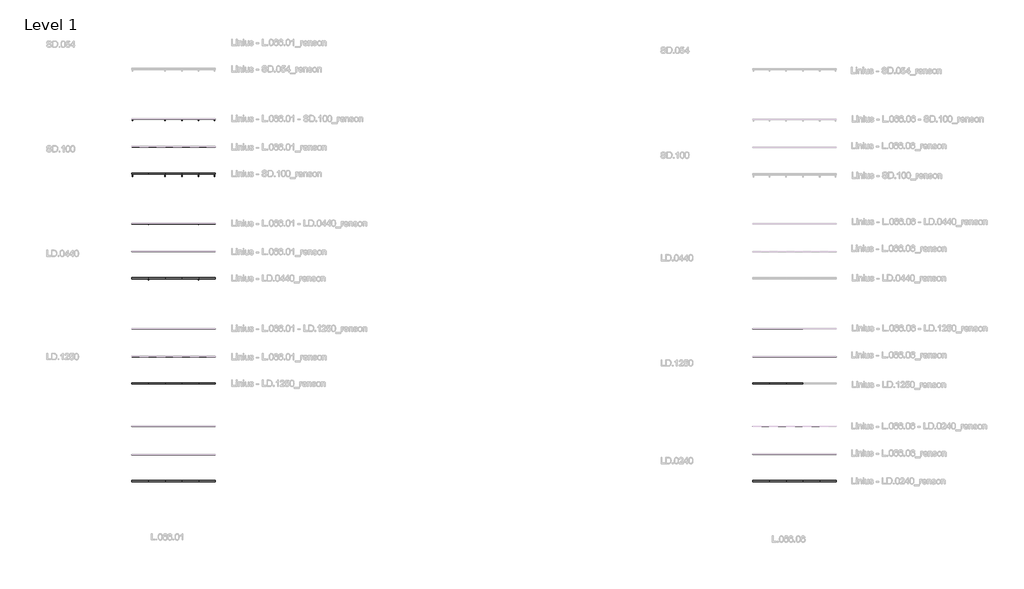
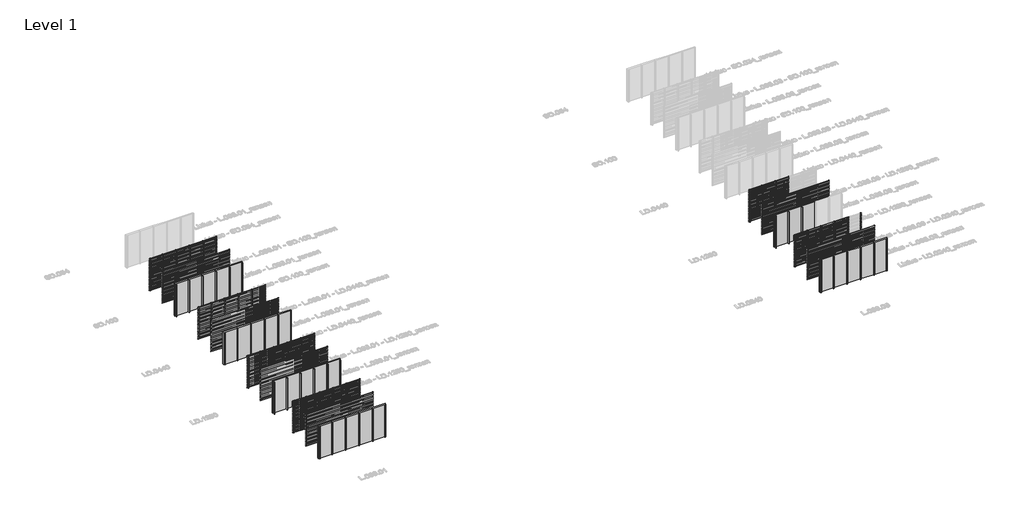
# One storey, part 1 of 540: 66 members, 61 plates.
"""IFC4 building model written with IfcOpenShell, lengths in millimetres."""

from ifc_helpers import new_model, si_unit, origin, origin_with_axes, place, context, project, spatial, polyline, outline, extrude, faceted_brep, transform, mapped, element, save
from components import rectangular_mullion_8b77bd57, rectangular_mullion_2c867e25, rectangular_mullion_7803f5c4, rectangular_mullion_82152e2f, rectangular_mullion_6132f1f1, rectangular_mullion_8f153c19, rectangular_mullion_5b30f3fd, rectangular_mullion_5e0e8e0a, rectangular_mullion_d2d38772, rectangular_mullion_efb80f74, rectangular_mullion_aaa1fb1b, rectangular_mullion_ea9d012c, empty_system_panel_empty_aabbdda4

model = new_model("IFC4")

# Units and contexts
model_context = context("Model", 3, world=origin())
ifc_project = project(units=[si_unit("LENGTHUNIT", "METRE", prefix="MILLI")], contexts=[model_context])

# Site, building, storey
site = spatial("IfcSite", under=ifc_project)
building = spatial("IfcBuilding", under=site)
storey = spatial("IfcBuildingStorey", under=building, Name="Level 1", Elevation=0.0)

# Members
placement = place(None, origin())
rectangular_mullion_shape = rectangular_mullion_8b77bd57(model_context)
element("IfcMember", 1, ObjectType="Rectangular Mullion : SD.100_renson", at=placement, inside=storey, context=model_context, shape_type="MappedRepresentation", body=[
    mapped(rectangular_mullion_shape, transform((4066.6208096, 29024.0540136, 0.0), x_axis=(-1.0, 0.0, 0.0), y_axis=(0.0, 1.0, 0.0), z_axis=(0.0, 0.0, -1.0))),
])
element("IfcMember", 2, ObjectType="Rectangular Mullion : SD.100_renson", at=placement, inside=storey, context=model_context, shape_type="MappedRepresentation", body=[
    mapped(rectangular_mullion_shape, transform((2866.6208097, 29024.0540136, 0.0), x_axis=(-1.0, 0.0, 0.0), y_axis=(0.0, 1.0, 0.0), z_axis=(0.0, 0.0, -1.0))),
])
element("IfcMember", 3, ObjectType="Rectangular Mullion : SD.100_renson", at=placement, inside=storey, context=model_context, shape_type="MappedRepresentation", body=[
    mapped(rectangular_mullion_shape, transform((1666.6208099, 29024.0540136, 0.0), x_axis=(-1.0, 0.0, 0.0), y_axis=(0.0, 1.0, 0.0), z_axis=(0.0, 0.0, -1.0))),
])
element("IfcMember", 4, ObjectType="Rectangular Mullion : SD.100_renson", at=placement, inside=storey, context=model_context, shape_type="MappedRepresentation", body=[
    mapped(rectangular_mullion_shape, transform((4066.6208096, 25024.0540136, 0.0), x_axis=(-1.0, 0.0, 0.0), y_axis=(0.0, 1.0, 0.0), z_axis=(0.0, 0.0, -1.0))),
])
element("IfcMember", 5, ObjectType="Rectangular Mullion : SD.100_renson", at=placement, inside=storey, context=model_context, shape_type="MappedRepresentation", body=[
    mapped(rectangular_mullion_shape, transform((2866.6208097, 25024.0540136, 0.0), x_axis=(-1.0, 0.0, 0.0), y_axis=(0.0, 1.0, 0.0), z_axis=(0.0, 0.0, -1.0))),
])
element("IfcMember", 6, ObjectType="Rectangular Mullion : SD.100_renson", at=placement, inside=storey, context=model_context, shape_type="MappedRepresentation", body=[
    mapped(rectangular_mullion_shape, transform((1666.6208099, 25024.0540136, 0.0), x_axis=(-1.0, 0.0, 0.0), y_axis=(0.0, 1.0, 0.0), z_axis=(0.0, 0.0, -1.0))),
])
element("IfcMember", 7, ObjectType="Rectangular Mullion : SD.100_renson", at=placement, inside=storey, context=model_context, shape_type="MappedRepresentation", body=[
    mapped(rectangular_mullion_shape, transform((5266.6208095, 25024.0540136, 0.0), x_axis=(-1.0, 0.0, 0.0), y_axis=(0.0, 1.0, 0.0), z_axis=(0.0, 0.0, -1.0))),
])
element("IfcMember", 8, ObjectType="Rectangular Mullion : SD.100_renson", at=placement, inside=storey, context=model_context, shape_type="MappedRepresentation", body=[
    mapped(rectangular_mullion_shape, transform((5266.6208095, 29024.0540136, 0.0), x_axis=(-1.0, 0.0, 0.0), y_axis=(0.0, 1.0, 0.0), z_axis=(0.0, 0.0, -1.0))),
])
rectangular_mullion_2_shape = rectangular_mullion_2c867e25(model_context)
element("IfcMember", 9, ObjectType="Rectangular Mullion : LD.0440_renson", at=placement, inside=storey, context=model_context, shape_type="MappedRepresentation", body=[
    mapped(rectangular_mullion_2_shape, transform((4066.6208096, 21524.0540136, 0.0), x_axis=(-1.0, 0.0, 0.0), y_axis=(0.0, 1.0, 0.0), z_axis=(0.0, 0.0, -1.0))),
])
element("IfcMember", 10, ObjectType="Rectangular Mullion : LD.0440_renson", at=placement, inside=storey, context=model_context, shape_type="MappedRepresentation", body=[
    mapped(rectangular_mullion_2_shape, transform((2866.6208097, 21524.0540136, 0.0), x_axis=(-1.0, 0.0, 0.0), y_axis=(0.0, 1.0, 0.0), z_axis=(0.0, 0.0, -1.0))),
])
element("IfcMember", 11, ObjectType="Rectangular Mullion : LD.0440_renson", at=placement, inside=storey, context=model_context, shape_type="MappedRepresentation", body=[
    mapped(rectangular_mullion_2_shape, transform((1666.6208099, 21524.0540136, 0.0), x_axis=(-1.0, 0.0, 0.0), y_axis=(0.0, 1.0, 0.0), z_axis=(0.0, 0.0, -1.0))),
])
element("IfcMember", 12, ObjectType="Rectangular Mullion : LD.0440_renson", at=placement, inside=storey, context=model_context, shape_type="MappedRepresentation", body=[
    mapped(rectangular_mullion_2_shape, transform((4066.6208096, 17524.0540136, 0.0), x_axis=(-1.0, 0.0, 0.0), y_axis=(0.0, 1.0, 0.0), z_axis=(0.0, 0.0, -1.0))),
])
element("IfcMember", 13, ObjectType="Rectangular Mullion : LD.0440_renson", at=placement, inside=storey, context=model_context, shape_type="MappedRepresentation", body=[
    mapped(rectangular_mullion_2_shape, transform((2866.6208097, 17524.0540136, 0.0), x_axis=(-1.0, 0.0, 0.0), y_axis=(0.0, 1.0, 0.0), z_axis=(0.0, 0.0, -1.0))),
])
element("IfcMember", 14, ObjectType="Rectangular Mullion : LD.0440_renson", at=placement, inside=storey, context=model_context, shape_type="MappedRepresentation", body=[
    mapped(rectangular_mullion_2_shape, transform((1666.6208099, 17524.0540136, 0.0), x_axis=(-1.0, 0.0, 0.0), y_axis=(0.0, 1.0, 0.0), z_axis=(0.0, 0.0, -1.0))),
])
element("IfcMember", 15, ObjectType="Rectangular Mullion : LD.0440_renson", at=placement, inside=storey, context=model_context, shape_type="MappedRepresentation", body=[
    mapped(rectangular_mullion_2_shape, transform((5266.6208095, 17524.0540136, 0.0), x_axis=(-1.0, 0.0, 0.0), y_axis=(0.0, 1.0, 0.0), z_axis=(0.0, 0.0, -1.0))),
])
element("IfcMember", 16, ObjectType="Rectangular Mullion : LD.0440_renson", at=placement, inside=storey, context=model_context, shape_type="MappedRepresentation", body=[
    mapped(rectangular_mullion_2_shape, transform((5266.6208095, 21524.0540136, 0.0), x_axis=(-1.0, 0.0, 0.0), y_axis=(0.0, 1.0, 0.0), z_axis=(0.0, 0.0, -1.0))),
])
rectangular_mullion_3_shape = rectangular_mullion_7803f5c4(model_context)
element("IfcMember", 17, ObjectType="Rectangular Mullion : LD.1250_renson", at=placement, inside=storey, context=model_context, shape_type="MappedRepresentation", body=[
    mapped(rectangular_mullion_3_shape, transform((4066.6208096, 13981.0540136, 0.0), x_axis=(-1.0, 0.0, 0.0), y_axis=(0.0, 1.0, 0.0), z_axis=(0.0, 0.0, -1.0))),
])
element("IfcMember", 18, ObjectType="Rectangular Mullion : LD.1250_renson", at=placement, inside=storey, context=model_context, shape_type="MappedRepresentation", body=[
    mapped(rectangular_mullion_3_shape, transform((2866.6208097, 13981.0540136, 0.0), x_axis=(-1.0, 0.0, 0.0), y_axis=(0.0, 1.0, 0.0), z_axis=(0.0, 0.0, -1.0))),
])
element("IfcMember", 19, ObjectType="Rectangular Mullion : LD.1250_renson", at=placement, inside=storey, context=model_context, shape_type="MappedRepresentation", body=[
    mapped(rectangular_mullion_3_shape, transform((1666.6208099, 13981.0540136, 0.0), x_axis=(-1.0, 0.0, 0.0), y_axis=(0.0, 1.0, 0.0), z_axis=(0.0, 0.0, -1.0))),
])
element("IfcMember", 20, ObjectType="Rectangular Mullion : LD.1250_renson", at=placement, inside=storey, context=model_context, shape_type="MappedRepresentation", body=[
    mapped(rectangular_mullion_3_shape, transform((4066.6208096, 9981.0540136, 0.0), x_axis=(-1.0, 0.0, 0.0), y_axis=(0.0, 1.0, 0.0), z_axis=(0.0, 0.0, -1.0))),
])
element("IfcMember", 21, ObjectType="Rectangular Mullion : LD.1250_renson", at=placement, inside=storey, context=model_context, shape_type="MappedRepresentation", body=[
    mapped(rectangular_mullion_3_shape, transform((2866.6208097, 9981.0540136, 0.0), x_axis=(-1.0, 0.0, 0.0), y_axis=(0.0, 1.0, 0.0), z_axis=(0.0, 0.0, -1.0))),
])
element("IfcMember", 22, ObjectType="Rectangular Mullion : LD.1250_renson", at=placement, inside=storey, context=model_context, shape_type="MappedRepresentation", body=[
    mapped(rectangular_mullion_3_shape, transform((1666.6208099, 9981.0540136, 0.0), x_axis=(-1.0, 0.0, 0.0), y_axis=(0.0, 1.0, 0.0), z_axis=(0.0, 0.0, -1.0))),
])
element("IfcMember", 23, ObjectType="Rectangular Mullion : LD.1250_renson", at=placement, inside=storey, context=model_context, shape_type="MappedRepresentation", body=[
    mapped(rectangular_mullion_3_shape, transform((5266.6208095, 9981.0540136, 0.0), x_axis=(-1.0, 0.0, 0.0), y_axis=(0.0, 1.0, 0.0), z_axis=(0.0, 0.0, -1.0))),
])
element("IfcMember", 24, ObjectType="Rectangular Mullion : LD.1250_renson", at=placement, inside=storey, context=model_context, shape_type="MappedRepresentation", body=[
    mapped(rectangular_mullion_3_shape, transform((5266.6208095, 13981.0540136, 0.0), x_axis=(-1.0, 0.0, 0.0), y_axis=(0.0, 1.0, 0.0), z_axis=(0.0, 0.0, -1.0))),
])
element("IfcMember", 25, ObjectType="Rectangular Mullion : LD.1250_renson", at=placement, inside=storey, context=model_context, shape_type="MappedRepresentation", body=[
    mapped(rectangular_mullion_3_shape, transform((47366.6208097, 13981.0540136, 0.0), x_axis=(-1.0, 0.0, 0.0), y_axis=(0.0, 1.0, 0.0), z_axis=(0.0, 0.0, -1.0))),
])
element("IfcMember", 26, ObjectType="Rectangular Mullion : LD.1250_renson", at=placement, inside=storey, context=model_context, shape_type="MappedRepresentation", body=[
    mapped(rectangular_mullion_3_shape, transform((46166.6208097, 13981.0540136, 0.0), x_axis=(-1.0, 0.0, 0.0), y_axis=(0.0, 1.0, 0.0), z_axis=(0.0, 0.0, -1.0))),
])
element("IfcMember", 27, ObjectType="Rectangular Mullion : LD.1250_renson", at=placement, inside=storey, context=model_context, shape_type="MappedRepresentation", body=[
    mapped(rectangular_mullion_3_shape, transform((47366.6208097, 9981.0540136, 0.0), x_axis=(-1.0, 0.0, 0.0), y_axis=(0.0, 1.0, 0.0), z_axis=(0.0, 0.0, -1.0))),
])
element("IfcMember", 28, ObjectType="Rectangular Mullion : LD.1250_renson", at=placement, inside=storey, context=model_context, shape_type="MappedRepresentation", body=[
    mapped(rectangular_mullion_3_shape, transform((46166.6208097, 9981.0540136, 0.0), x_axis=(-1.0, 0.0, 0.0), y_axis=(0.0, 1.0, 0.0), z_axis=(0.0, 0.0, -1.0))),
])
rectangular_mullion_4_shape = rectangular_mullion_82152e2f(model_context)
element("IfcMember", 29, ObjectType="Rectangular Mullion : LD.0240_renson", at=placement, inside=storey, context=model_context, shape_type="MappedRepresentation", body=[
    mapped(rectangular_mullion_4_shape, transform((49766.6208097, 6985.0270068, 0.0), x_axis=(-1.0, 0.0, 0.0), y_axis=(0.0, 1.0, 0.0), z_axis=(0.0, 0.0, -1.0))),
])
element("IfcMember", 30, ObjectType="Rectangular Mullion : LD.0240_renson", at=placement, inside=storey, context=model_context, shape_type="MappedRepresentation", body=[
    mapped(rectangular_mullion_4_shape, transform((48566.6208097, 6985.0270068, 0.0), x_axis=(-1.0, 0.0, 0.0), y_axis=(0.0, 1.0, 0.0), z_axis=(0.0, 0.0, -1.0))),
])
element("IfcMember", 31, ObjectType="Rectangular Mullion : LD.0240_renson", at=placement, inside=storey, context=model_context, shape_type="MappedRepresentation", body=[
    mapped(rectangular_mullion_4_shape, transform((47366.6208097, 6985.0270068, 0.0), x_axis=(-1.0, 0.0, 0.0), y_axis=(0.0, 1.0, 0.0), z_axis=(0.0, 0.0, -1.0))),
])
element("IfcMember", 32, ObjectType="Rectangular Mullion : LD.0240_renson", at=placement, inside=storey, context=model_context, shape_type="MappedRepresentation", body=[
    mapped(rectangular_mullion_4_shape, transform((46166.6208097, 6985.0270068, 0.0), x_axis=(-1.0, 0.0, 0.0), y_axis=(0.0, 1.0, 0.0), z_axis=(0.0, 0.0, -1.0))),
])
element("IfcMember", 33, ObjectType="Rectangular Mullion : LD.0240_renson", at=placement, inside=storey, context=model_context, shape_type="MappedRepresentation", body=[
    mapped(rectangular_mullion_4_shape, transform((49766.6208097, 2985.0270068, 0.0), x_axis=(-1.0, 0.0, 0.0), y_axis=(0.0, 1.0, 0.0), z_axis=(0.0, 0.0, -1.0))),
])
element("IfcMember", 34, ObjectType="Rectangular Mullion : LD.0240_renson", at=placement, inside=storey, context=model_context, shape_type="MappedRepresentation", body=[
    mapped(rectangular_mullion_4_shape, transform((48566.6208097, 2985.0270068, 0.0), x_axis=(-1.0, 0.0, 0.0), y_axis=(0.0, 1.0, 0.0), z_axis=(0.0, 0.0, -1.0))),
])
element("IfcMember", 35, ObjectType="Rectangular Mullion : LD.0240_renson", at=placement, inside=storey, context=model_context, shape_type="MappedRepresentation", body=[
    mapped(rectangular_mullion_4_shape, transform((47366.6208097, 2985.0270068, 0.0), x_axis=(-1.0, 0.0, 0.0), y_axis=(0.0, 1.0, 0.0), z_axis=(0.0, 0.0, -1.0))),
])
element("IfcMember", 36, ObjectType="Rectangular Mullion : LD.0240_renson", at=placement, inside=storey, context=model_context, shape_type="MappedRepresentation", body=[
    mapped(rectangular_mullion_4_shape, transform((46166.6208097, 2985.0270068, 0.0), x_axis=(-1.0, 0.0, 0.0), y_axis=(0.0, 1.0, 0.0), z_axis=(0.0, 0.0, -1.0))),
])
element("IfcMember", 37, ObjectType="Rectangular Mullion : LD.0240_renson", at=placement, inside=storey, context=model_context, shape_type="MappedRepresentation", body=[
    mapped(rectangular_mullion_4_shape, transform((5266.6208097, 2985.0270068, 0.0), x_axis=(-1.0, 0.0, 0.0), y_axis=(0.0, 1.0, 0.0), z_axis=(0.0, 0.0, -1.0))),
])
element("IfcMember", 38, ObjectType="Rectangular Mullion : LD.0240_renson", at=placement, inside=storey, context=model_context, shape_type="MappedRepresentation", body=[
    mapped(rectangular_mullion_4_shape, transform((4066.6208097, 2985.0270068, 0.0), x_axis=(-1.0, 0.0, 0.0), y_axis=(0.0, 1.0, 0.0), z_axis=(0.0, 0.0, -1.0))),
])
element("IfcMember", 39, ObjectType="Rectangular Mullion : LD.0240_renson", at=placement, inside=storey, context=model_context, shape_type="MappedRepresentation", body=[
    mapped(rectangular_mullion_4_shape, transform((2866.6208097, 2985.0270068, 0.0), x_axis=(-1.0, 0.0, 0.0), y_axis=(0.0, 1.0, 0.0), z_axis=(0.0, 0.0, -1.0))),
])
element("IfcMember", 40, ObjectType="Rectangular Mullion : LD.0240_renson", at=placement, inside=storey, context=model_context, shape_type="MappedRepresentation", body=[
    mapped(rectangular_mullion_4_shape, transform((1666.6208097, 2985.0270068, 0.0), x_axis=(-1.0, 0.0, 0.0), y_axis=(0.0, 1.0, 0.0), z_axis=(0.0, 0.0, -1.0))),
])
element("IfcMember", 41, ObjectType="Rectangular Mullion : LD.0240_renson", at=placement, inside=storey, context=model_context, shape_type="MappedRepresentation", body=[
    mapped(rectangular_mullion_4_shape, transform((5266.6208097, 6985.0270068, 0.0), x_axis=(-1.0, 0.0, 0.0), y_axis=(0.0, 1.0, 0.0), z_axis=(0.0, 0.0, -1.0))),
])
element("IfcMember", 42, ObjectType="Rectangular Mullion : LD.0240_renson", at=placement, inside=storey, context=model_context, shape_type="MappedRepresentation", body=[
    mapped(rectangular_mullion_4_shape, transform((4066.6208097, 6985.0270068, 0.0), x_axis=(-1.0, 0.0, 0.0), y_axis=(0.0, 1.0, 0.0), z_axis=(0.0, 0.0, -1.0))),
])
element("IfcMember", 43, ObjectType="Rectangular Mullion : LD.0240_renson", at=placement, inside=storey, context=model_context, shape_type="MappedRepresentation", body=[
    mapped(rectangular_mullion_4_shape, transform((2866.6208097, 6985.0270068, 0.0), x_axis=(-1.0, 0.0, 0.0), y_axis=(0.0, 1.0, 0.0), z_axis=(0.0, 0.0, -1.0))),
])
element("IfcMember", 44, ObjectType="Rectangular Mullion : LD.0240_renson", at=placement, inside=storey, context=model_context, shape_type="MappedRepresentation", body=[
    mapped(rectangular_mullion_4_shape, transform((1666.6208097, 6985.0270068, 0.0), x_axis=(-1.0, 0.0, 0.0), y_axis=(0.0, 1.0, 0.0), z_axis=(0.0, 0.0, -1.0))),
])
rectangular_mullion_5_shape = rectangular_mullion_6132f1f1(model_context)
element("IfcMember", 45, ObjectType="Rectangular Mullion : SD.100 - left_renson", at=placement, inside=storey, context=model_context, shape_type="MappedRepresentation", body=[
    mapped(rectangular_mullion_5_shape, transform((466.6208097, 29024.0540136, 0.0), x_axis=(-1.0, 0.0, 0.0), y_axis=(0.0, 1.0, 0.0), z_axis=(0.0, 0.0, -1.0))),
])
element("IfcMember", 46, ObjectType="Rectangular Mullion : SD.100 - left_renson", at=placement, inside=storey, context=model_context, shape_type="MappedRepresentation", body=[
    mapped(rectangular_mullion_5_shape, transform((466.6208097, 25024.0540136, 0.0), x_axis=(-1.0, 0.0, 0.0), y_axis=(0.0, 1.0, 0.0), z_axis=(0.0, 0.0, -1.0))),
])
rectangular_mullion_6_shape = rectangular_mullion_8f153c19(model_context)
element("IfcMember", 47, ObjectType="Rectangular Mullion : SD.100 - right_renson", at=placement, inside=storey, context=model_context, shape_type="MappedRepresentation", body=[
    mapped(rectangular_mullion_6_shape, transform((6466.6208097, 29024.0540136, 3000.0), x_axis=(1.0, 0.0, 0.0), y_axis=(0.0, 1.0, 0.0), z_axis=(0.0, 0.0, 1.0))),
])
element("IfcMember", 48, ObjectType="Rectangular Mullion : SD.100 - right_renson", at=placement, inside=storey, context=model_context, shape_type="MappedRepresentation", body=[
    mapped(rectangular_mullion_6_shape, transform((6466.6208097, 25024.0540136, 3000.0), x_axis=(1.0, 0.0, 0.0), y_axis=(0.0, 1.0, 0.0), z_axis=(0.0, 0.0, 1.0))),
])
rectangular_mullion_7_shape = rectangular_mullion_5b30f3fd(model_context)
element("IfcMember", 49, ObjectType="Rectangular Mullion : LD.0440 - left_renson", at=placement, inside=storey, context=model_context, shape_type="MappedRepresentation", body=[
    mapped(rectangular_mullion_7_shape, transform((466.6208097, 21524.0540136, 0.0), x_axis=(-1.0, 0.0, 0.0), y_axis=(0.0, 1.0, 0.0), z_axis=(0.0, 0.0, -1.0))),
])
element("IfcMember", 50, ObjectType="Rectangular Mullion : LD.0440 - left_renson", at=placement, inside=storey, context=model_context, shape_type="MappedRepresentation", body=[
    mapped(rectangular_mullion_7_shape, transform((466.6208097, 17524.0540136, 0.0), x_axis=(-1.0, 0.0, 0.0), y_axis=(0.0, 1.0, 0.0), z_axis=(0.0, 0.0, -1.0))),
])
rectangular_mullion_8_shape = rectangular_mullion_5e0e8e0a(model_context)
element("IfcMember", 51, ObjectType="Rectangular Mullion : LD.0440 - right_renson", at=placement, inside=storey, context=model_context, shape_type="MappedRepresentation", body=[
    mapped(rectangular_mullion_8_shape, transform((6466.6208097, 21524.0540136, 3000.0), x_axis=(1.0, 0.0, 0.0), y_axis=(0.0, 1.0, 0.0), z_axis=(0.0, 0.0, 1.0))),
])
element("IfcMember", 52, ObjectType="Rectangular Mullion : LD.0440 - right_renson", at=placement, inside=storey, context=model_context, shape_type="MappedRepresentation", body=[
    mapped(rectangular_mullion_8_shape, transform((6466.6208097, 17524.0540136, 3000.0), x_axis=(1.0, 0.0, 0.0), y_axis=(0.0, 1.0, 0.0), z_axis=(0.0, 0.0, 1.0))),
])
rectangular_mullion_9_shape = rectangular_mullion_d2d38772(model_context)
element("IfcMember", 53, ObjectType="Rectangular Mullion : LD.1250 - left_renson", at=placement, inside=storey, context=model_context, shape_type="MappedRepresentation", body=[
    mapped(rectangular_mullion_9_shape, transform((466.6208097, 13981.0540136, 0.0), x_axis=(-1.0, 0.0, 0.0), y_axis=(0.0, 1.0, 0.0), z_axis=(0.0, 0.0, -1.0))),
])
element("IfcMember", 54, ObjectType="Rectangular Mullion : LD.1250 - left_renson", at=placement, inside=storey, context=model_context, shape_type="MappedRepresentation", body=[
    mapped(rectangular_mullion_9_shape, transform((466.6208097, 9981.0540136, 0.0), x_axis=(-1.0, 0.0, 0.0), y_axis=(0.0, 1.0, 0.0), z_axis=(0.0, 0.0, -1.0))),
])
element("IfcMember", 55, ObjectType="Rectangular Mullion : LD.1250 - left_renson", at=placement, inside=storey, context=model_context, shape_type="MappedRepresentation", body=[
    mapped(rectangular_mullion_9_shape, transform((44966.6208097, 13981.0540136, 0.0), x_axis=(-1.0, 0.0, 0.0), y_axis=(0.0, 1.0, 0.0), z_axis=(0.0, 0.0, -1.0))),
])
element("IfcMember", 56, ObjectType="Rectangular Mullion : LD.1250 - left_renson", at=placement, inside=storey, context=model_context, shape_type="MappedRepresentation", body=[
    mapped(rectangular_mullion_9_shape, transform((44966.6208097, 9981.0540136, 0.0), x_axis=(-1.0, 0.0, 0.0), y_axis=(0.0, 1.0, 0.0), z_axis=(0.0, 0.0, -1.0))),
])
rectangular_mullion_10_shape = rectangular_mullion_efb80f74(model_context)
element("IfcMember", 57, ObjectType="Rectangular Mullion : LD.1250 - right_renson", at=placement, inside=storey, context=model_context, shape_type="MappedRepresentation", body=[
    mapped(rectangular_mullion_10_shape, transform((6466.6208097, 13981.0540136, 3000.0), x_axis=(1.0, 0.0, 0.0), y_axis=(0.0, 1.0, 0.0), z_axis=(0.0, 0.0, 1.0))),
])
element("IfcMember", 58, ObjectType="Rectangular Mullion : LD.1250 - right_renson", at=placement, inside=storey, context=model_context, shape_type="MappedRepresentation", body=[
    mapped(rectangular_mullion_10_shape, transform((6466.6208097, 9981.0540136, 3000.0), x_axis=(1.0, 0.0, 0.0), y_axis=(0.0, 1.0, 0.0), z_axis=(0.0, 0.0, 1.0))),
])
rectangular_mullion_11_shape = rectangular_mullion_aaa1fb1b(model_context)
element("IfcMember", 59, ObjectType="Rectangular Mullion : LD.0240 - left_renson", at=placement, inside=storey, context=model_context, shape_type="MappedRepresentation", body=[
    mapped(rectangular_mullion_11_shape, transform((44966.6208097, 6985.0270068, 0.0), x_axis=(-1.0, 0.0, 0.0), y_axis=(0.0, 1.0, 0.0), z_axis=(0.0, 0.0, -1.0))),
])
element("IfcMember", 60, ObjectType="Rectangular Mullion : LD.0240 - left_renson", at=placement, inside=storey, context=model_context, shape_type="MappedRepresentation", body=[
    mapped(rectangular_mullion_11_shape, transform((44966.6208097, 2985.0270068, 0.0), x_axis=(-1.0, 0.0, 0.0), y_axis=(0.0, 1.0, 0.0), z_axis=(0.0, 0.0, -1.0))),
])
element("IfcMember", 61, ObjectType="Rectangular Mullion : LD.0240 - left_renson", at=placement, inside=storey, context=model_context, shape_type="MappedRepresentation", body=[
    mapped(rectangular_mullion_11_shape, transform((466.6208097, 2985.0270068, 0.0), x_axis=(-1.0, 0.0, 0.0), y_axis=(0.0, 1.0, 0.0), z_axis=(0.0, 0.0, -1.0))),
])
element("IfcMember", 62, ObjectType="Rectangular Mullion : LD.0240 - left_renson", at=placement, inside=storey, context=model_context, shape_type="MappedRepresentation", body=[
    mapped(rectangular_mullion_11_shape, transform((466.6208097, 6985.0270068, 0.0), x_axis=(-1.0, 0.0, 0.0), y_axis=(0.0, 1.0, 0.0), z_axis=(0.0, 0.0, -1.0))),
])
rectangular_mullion_12_shape = rectangular_mullion_ea9d012c(model_context)
element("IfcMember", 63, ObjectType="Rectangular Mullion : LD.0240 - right_renson", at=placement, inside=storey, context=model_context, shape_type="MappedRepresentation", body=[
    mapped(rectangular_mullion_12_shape, transform((50966.6208097, 6985.0270068, 3000.0), x_axis=(1.0, 0.0, 0.0), y_axis=(0.0, 1.0, 0.0), z_axis=(0.0, 0.0, 1.0))),
])
element("IfcMember", 64, ObjectType="Rectangular Mullion : LD.0240 - right_renson", at=placement, inside=storey, context=model_context, shape_type="MappedRepresentation", body=[
    mapped(rectangular_mullion_12_shape, transform((50966.6208097, 2985.0270068, 3000.0), x_axis=(1.0, 0.0, 0.0), y_axis=(0.0, 1.0, 0.0), z_axis=(0.0, 0.0, 1.0))),
])
element("IfcMember", 65, ObjectType="Rectangular Mullion : LD.0240 - right_renson", at=placement, inside=storey, context=model_context, shape_type="MappedRepresentation", body=[
    mapped(rectangular_mullion_12_shape, transform((6466.6208097, 2985.0270068, 3000.0), x_axis=(1.0, 0.0, 0.0), y_axis=(0.0, 1.0, 0.0), z_axis=(0.0, 0.0, 1.0))),
])
element("IfcMember", 66, ObjectType="Rectangular Mullion : LD.0240 - right_renson", at=placement, inside=storey, context=model_context, shape_type="MappedRepresentation", body=[
    mapped(rectangular_mullion_12_shape, transform((6466.6208097, 6985.0270068, 3000.0), x_axis=(1.0, 0.0, 0.0), y_axis=(0.0, 1.0, 0.0), z_axis=(0.0, 0.0, 1.0))),
])

# Plates
element("IfcPlate", 67, ObjectType="Linius - L.066.01_renson", at=placement, inside=storey, context=model_context, shape_type="SweptSolid", body=[
    extrude(outline(polyline([(466.6208097, 29025.0540136), (1666.6208099, 29025.0540136), (1666.6208099, 29023.0540136), (466.6208097, 29023.0540136), (466.6208097, 29025.0540136)])), origin_with_axes(), (0.0, 0.0, 1.0), 3000.0),
])
element("IfcPlate", 68, ObjectType="Linius - L.066.01_renson", at=placement, inside=storey, context=model_context, shape_type="SweptSolid", body=[
    extrude(outline(polyline([(1666.6208099, 29025.0540136), (2866.6208097, 29025.0540136), (2866.6208097, 29023.0540136), (1666.6208099, 29023.0540136), (1666.6208099, 29025.0540136)])), origin_with_axes(), (0.0, 0.0, 1.0), 3000.0),
])
element("IfcPlate", 69, ObjectType="Linius - L.066.01_renson", at=placement, inside=storey, context=model_context, shape_type="SweptSolid", body=[
    extrude(outline(polyline([(2866.6208097, 29025.0540136), (4066.6208096, 29025.0540136), (4066.6208096, 29023.0540136), (2866.6208097, 29023.0540136), (2866.6208097, 29025.0540136)])), origin_with_axes(), (0.0, 0.0, 1.0), 3000.0),
])
element("IfcPlate", 70, ObjectType="Linius - L.066.01_renson", at=placement, inside=storey, context=model_context, shape_type="SweptSolid", body=[
    extrude(outline(polyline([(5266.6208095, 29025.0540136), (6466.6208097, 29025.0540136), (6466.6208097, 29023.0540136), (5266.6208095, 29023.0540136), (5266.6208095, 29025.0540136)])), origin_with_axes(), (0.0, 0.0, 1.0), 3000.0),
])
element("IfcPlate", 71, ObjectType="Linius - L.066.01_renson", at=placement, inside=storey, context=model_context, shape_type="SweptSolid", body=[
    extrude(outline(polyline([(466.6208097, 27025.0540136), (6466.6208097, 27025.0540136), (6466.6208097, 27023.0540136), (466.6208097, 27023.0540136), (466.6208097, 27025.0540136)])), origin_with_axes(), (0.0, 0.0, 1.0), 3000.0),
])
element("IfcPlate", 72, ObjectType="Linius - L.066.01_renson", at=placement, inside=storey, context=model_context, shape_type="SweptSolid", body=[
    extrude(outline(polyline([(466.6208097, 21525.0540136), (1666.6208099, 21525.0540136), (1666.6208099, 21523.0540136), (466.6208097, 21523.0540136), (466.6208097, 21525.0540136)])), origin_with_axes(), (0.0, 0.0, 1.0), 3000.0),
])
element("IfcPlate", 73, ObjectType="Linius - L.066.01_renson", at=placement, inside=storey, context=model_context, shape_type="SweptSolid", body=[
    extrude(outline(polyline([(1666.6208099, 21525.0540136), (2866.6208097, 21525.0540136), (2866.6208097, 21523.0540136), (1666.6208099, 21523.0540136), (1666.6208099, 21525.0540136)])), origin_with_axes(), (0.0, 0.0, 1.0), 3000.0),
])
element("IfcPlate", 74, ObjectType="Linius - L.066.01_renson", at=placement, inside=storey, context=model_context, shape_type="SweptSolid", body=[
    extrude(outline(polyline([(2866.6208097, 21525.0540136), (4066.6208096, 21525.0540136), (4066.6208096, 21523.0540136), (2866.6208097, 21523.0540136), (2866.6208097, 21525.0540136)])), origin_with_axes(), (0.0, 0.0, 1.0), 3000.0),
])
element("IfcPlate", 75, ObjectType="Linius - L.066.01_renson", at=placement, inside=storey, context=model_context, shape_type="SweptSolid", body=[
    extrude(outline(polyline([(5266.6208095, 21525.0540136), (6466.6208097, 21525.0540136), (6466.6208097, 21523.0540136), (5266.6208095, 21523.0540136), (5266.6208095, 21525.0540136)])), origin_with_axes(), (0.0, 0.0, 1.0), 3000.0),
])
element("IfcPlate", 76, ObjectType="Linius - L.066.01_renson", at=placement, inside=storey, context=model_context, shape_type="SweptSolid", body=[
    extrude(outline(polyline([(466.6208097, 19525.0540136), (6466.6208097, 19525.0540136), (6466.6208097, 19523.0540136), (466.6208097, 19523.0540136), (466.6208097, 19525.0540136)])), origin_with_axes(), (0.0, 0.0, 1.0), 3000.0),
])
element("IfcPlate", 77, ObjectType="Linius - L.066.01_renson", at=placement, inside=storey, context=model_context, shape_type="SweptSolid", body=[
    extrude(outline(polyline([(466.6208097, 13982.0540136), (1666.6208099, 13982.0540136), (1666.6208099, 13980.0540136), (466.6208097, 13980.0540136), (466.6208097, 13982.0540136)])), origin_with_axes(), (0.0, 0.0, 1.0), 3000.0),
])
element("IfcPlate", 78, ObjectType="Linius - L.066.01_renson", at=placement, inside=storey, context=model_context, shape_type="SweptSolid", body=[
    extrude(outline(polyline([(1666.6208099, 13982.0540136), (2866.6208097, 13982.0540136), (2866.6208097, 13980.0540136), (1666.6208099, 13980.0540136), (1666.6208099, 13982.0540136)])), origin_with_axes(), (0.0, 0.0, 1.0), 3000.0),
])
element("IfcPlate", 79, ObjectType="Linius - L.066.01_renson", at=placement, inside=storey, context=model_context, shape_type="SweptSolid", body=[
    extrude(outline(polyline([(2866.6208097, 13982.0540136), (4066.6208096, 13982.0540136), (4066.6208096, 13980.0540136), (2866.6208097, 13980.0540136), (2866.6208097, 13982.0540136)])), origin_with_axes(), (0.0, 0.0, 1.0), 3000.0),
])
element("IfcPlate", 80, ObjectType="Linius - L.066.01_renson", at=placement, inside=storey, context=model_context, shape_type="SweptSolid", body=[
    extrude(outline(polyline([(5266.6208095, 13982.0540136), (6466.6208097, 13982.0540136), (6466.6208097, 13980.0540136), (5266.6208095, 13980.0540136), (5266.6208095, 13982.0540136)])), origin_with_axes(), (0.0, 0.0, 1.0), 3000.0),
])
element("IfcPlate", 81, ObjectType="Linius - L.066.01_renson", at=placement, inside=storey, context=model_context, shape_type="SweptSolid", body=[
    extrude(outline(polyline([(466.6208097, 11982.0540136), (6466.6208097, 11982.0540136), (6466.6208097, 11980.0540136), (466.6208097, 11980.0540136), (466.6208097, 11982.0540136)])), origin_with_axes(), (0.0, 0.0, 1.0), 3000.0),
])
element("IfcPlate", 82, ObjectType="Linius - L.066.01_renson", at=placement, inside=storey, context=model_context, shape_type="SweptSolid", body=[
    extrude(outline(polyline([(4066.6208096, 21525.0540136), (5266.6208095, 21525.0540136), (5266.6208095, 21523.0540136), (4066.6208096, 21523.0540136), (4066.6208096, 21525.0540136)])), origin_with_axes(), (0.0, 0.0, 1.0), 3000.0),
])
element("IfcPlate", 83, ObjectType="Linius - L.066.01_renson", at=placement, inside=storey, context=model_context, shape_type="SweptSolid", body=[
    extrude(outline(polyline([(4066.6208096, 13982.0540136), (5266.6208095, 13982.0540136), (5266.6208095, 13980.0540136), (4066.6208096, 13980.0540136), (4066.6208096, 13982.0540136)])), origin_with_axes(), (0.0, 0.0, 1.0), 3000.0),
])
element("IfcPlate", 84, ObjectType="Linius - L.066.01_renson", at=placement, inside=storey, context=model_context, shape_type="SweptSolid", body=[
    extrude(outline(polyline([(4066.6208096, 29025.0540136), (5266.6208095, 29025.0540136), (5266.6208095, 29023.0540136), (4066.6208096, 29023.0540136), (4066.6208096, 29025.0540136)])), origin_with_axes(), (0.0, 0.0, 1.0), 3000.0),
])
element("IfcPlate", 85, ObjectType="Linius - L.066.06_renson", at=placement, inside=storey, context=model_context, shape_type="SweptSolid", body=[
    extrude(outline(polyline([(44966.6208097, 13982.0540136), (46166.6208097, 13982.0540136), (46166.6208097, 13980.0540136), (44966.6208097, 13980.0540136), (44966.6208097, 13982.0540136)])), origin_with_axes(), (0.0, 0.0, 1.0), 3000.0),
])
element("IfcPlate", 86, ObjectType="Linius - L.066.06_renson", at=placement, inside=storey, context=model_context, shape_type="SweptSolid", body=[
    extrude(outline(polyline([(46166.6208097, 13982.0540136), (47366.6208097, 13982.0540136), (47366.6208097, 13980.0540136), (46166.6208097, 13980.0540136), (46166.6208097, 13982.0540136)])), origin_with_axes(), (0.0, 0.0, 1.0), 3000.0),
])
element("IfcPlate", 87, ObjectType="Linius - L.066.06_renson", at=placement, inside=storey, context=model_context, shape_type="SweptSolid", body=[
    extrude(outline(polyline([(47366.6208097, 13982.0540136), (48566.6208097, 13982.0540136), (48566.6208097, 13980.0540136), (47366.6208097, 13980.0540136), (47366.6208097, 13982.0540136)])), origin_with_axes(), (0.0, 0.0, 1.0), 3000.0),
])
element("IfcPlate", 88, ObjectType="Linius - L.066.06_renson", at=placement, inside=storey, context=model_context, shape_type="SweptSolid", body=[
    extrude(outline(polyline([(44966.6208097, 11982.0540136), (50966.6208097, 11982.0540136), (50966.6208097, 11980.0540136), (44966.6208097, 11980.0540136), (44966.6208097, 11982.0540136)])), origin_with_axes(), (0.0, 0.0, 1.0), 3000.0),
])
element("IfcPlate", 89, ObjectType="Linius - L.066.06_renson", at=placement, inside=storey, context=model_context, shape_type="SweptSolid", body=[
    extrude(outline(polyline([(44966.6208097, 6986.0270068), (46166.6208097, 6986.0270068), (46166.6208097, 6984.0270068), (44966.6208097, 6984.0270068), (44966.6208097, 6986.0270068)])), origin_with_axes(), (0.0, 0.0, 1.0), 3000.0),
])
element("IfcPlate", 90, ObjectType="Linius - L.066.06_renson", at=placement, inside=storey, context=model_context, shape_type="SweptSolid", body=[
    extrude(outline(polyline([(46166.6208097, 6986.0270068), (47366.6208097, 6986.0270068), (47366.6208097, 6984.0270068), (46166.6208097, 6984.0270068), (46166.6208097, 6986.0270068)])), origin_with_axes(), (0.0, 0.0, 1.0), 3000.0),
])
element("IfcPlate", 91, ObjectType="Linius - L.066.06_renson", at=placement, inside=storey, context=model_context, shape_type="SweptSolid", body=[
    extrude(outline(polyline([(47366.6208097, 6986.0270068), (48566.6208097, 6986.0270068), (48566.6208097, 6984.0270068), (47366.6208097, 6984.0270068), (47366.6208097, 6986.0270068)])), origin_with_axes(), (0.0, 0.0, 1.0), 3000.0),
])
element("IfcPlate", 92, ObjectType="Linius - L.066.06_renson", at=placement, inside=storey, context=model_context, shape_type="SweptSolid", body=[
    extrude(outline(polyline([(48566.6208097, 6986.0270068), (49766.6208097, 6986.0270068), (49766.6208097, 6984.0270068), (48566.6208097, 6984.0270068), (48566.6208097, 6986.0270068)])), origin_with_axes(), (0.0, 0.0, 1.0), 3000.0),
])
element("IfcPlate", 93, ObjectType="Linius - L.066.06_renson", at=placement, inside=storey, context=model_context, shape_type="SweptSolid", body=[
    extrude(outline(polyline([(44966.6208097, 4986.0270068), (50966.6208097, 4986.0270068), (50966.6208097, 4984.0270068), (44966.6208097, 4984.0270068), (44966.6208097, 4986.0270068)])), origin_with_axes(), (0.0, 0.0, 1.0), 3000.0),
])
element("IfcPlate", 94, at=placement, inside=storey, context=model_context, shape_type="Brep", body=[
    faceted_brep([(6466.6208097, 4945.0270068, 0.0), (466.6208097, 4945.0270068, 0.0), (466.6208097, 4945.0270068, 3000.0), (6466.6208097, 4945.0270068, 3000.0), (6466.6208097, 4943.0270068, 0.0), (6466.6208097, 4943.0270068, 3000.0), (466.6208097, 4943.0270068, 3000.0), (466.6208097, 4943.0270068, 0.0)], [[[0, 1, 2, 3]], [[4, 5, 6, 7]], [[1, 0, 4, 7]], [[2, 1, 7, 6]], [[3, 2, 6, 5]], [[0, 3, 5, 4]]]),
])
element("IfcPlate", 95, at=placement, inside=storey, context=model_context, shape_type="Brep", body=[
    faceted_brep([(1666.6208097, 6986.0270068, 0.0), (466.6208097, 6986.0270068, 0.0), (466.6208097, 6986.0270068, 3000.0), (1666.6208097, 6986.0270068, 3000.0), (1666.6208097, 6984.0270068, 0.0), (1666.6208097, 6984.0270068, 3000.0), (466.6208097, 6984.0270068, 3000.0), (466.6208097, 6984.0270068, 0.0)], [[[0, 1, 2, 3]], [[4, 5, 6, 7]], [[1, 0, 4, 7]], [[2, 1, 7, 6]], [[3, 2, 6, 5]], [[0, 3, 5, 4]]]),
])
element("IfcPlate", 96, at=placement, inside=storey, context=model_context, shape_type="Brep", body=[
    faceted_brep([(2866.6208097, 6986.0270068, 0.0), (1666.6208097, 6986.0270068, 0.0), (1666.6208097, 6986.0270068, 3000.0), (2866.6208097, 6986.0270068, 3000.0), (2866.6208097, 6984.0270068, 0.0), (2866.6208097, 6984.0270068, 3000.0), (1666.6208097, 6984.0270068, 3000.0), (1666.6208097, 6984.0270068, 0.0)], [[[0, 1, 2, 3]], [[4, 5, 6, 7]], [[1, 0, 4, 7]], [[2, 1, 7, 6]], [[3, 2, 6, 5]], [[0, 3, 5, 4]]]),
])
element("IfcPlate", 97, at=placement, inside=storey, context=model_context, shape_type="Brep", body=[
    faceted_brep([(4066.6208097, 6986.0270068, 0.0), (2866.6208097, 6986.0270068, 0.0), (2866.6208097, 6986.0270068, 3000.0), (4066.6208097, 6986.0270068, 3000.0), (4066.6208097, 6984.0270068, 0.0), (4066.6208097, 6984.0270068, 3000.0), (2866.6208097, 6984.0270068, 3000.0), (2866.6208097, 6984.0270068, 0.0)], [[[0, 1, 2, 3]], [[4, 5, 6, 7]], [[1, 0, 4, 7]], [[2, 1, 7, 6]], [[3, 2, 6, 5]], [[0, 3, 5, 4]]]),
])
element("IfcPlate", 98, at=placement, inside=storey, context=model_context, shape_type="Brep", body=[
    faceted_brep([(5266.6208097, 6986.0270068, 0.0), (4066.6208097, 6986.0270068, 0.0), (4066.6208097, 6986.0270068, 3000.0), (5266.6208097, 6986.0270068, 3000.0), (5266.6208097, 6984.0270068, 0.0), (5266.6208097, 6984.0270068, 3000.0), (4066.6208097, 6984.0270068, 3000.0), (4066.6208097, 6984.0270068, 0.0)], [[[0, 1, 2, 3]], [[4, 5, 6, 7]], [[1, 0, 4, 7]], [[2, 1, 7, 6]], [[3, 2, 6, 5]], [[0, 3, 5, 4]]]),
])
element("IfcPlate", 99, at=placement, inside=storey, context=model_context, shape_type="Brep", body=[
    faceted_brep([(6466.6208097, 6986.0270068, 0.0), (5266.6208097, 6986.0270068, 0.0), (5266.6208097, 6986.0270068, 3000.0), (6466.6208097, 6986.0270068, 3000.0), (6466.6208097, 6984.0270068, 0.0), (6466.6208097, 6984.0270068, 3000.0), (5266.6208097, 6984.0270068, 3000.0), (5266.6208097, 6984.0270068, 0.0)], [[[0, 1, 2, 3]], [[4, 5, 6, 7]], [[1, 0, 4, 7]], [[2, 1, 7, 6]], [[3, 2, 6, 5]], [[0, 3, 5, 4]]]),
])
empty_system_panel_empty_shape = empty_system_panel_empty_aabbdda4(model_context)
element("IfcPlate", 100, ObjectType="Empty System Panel : Empty", at=placement, inside=storey, context=model_context, shape_type="MappedRepresentation", body=[
    mapped(empty_system_panel_empty_shape, transform((5866.6208096, 25024.0540136, 0.0), x_axis=(-1.0, 0.0, 0.0), y_axis=(0.0, -1.0, 0.0), z_axis=(0.0, 0.0, 1.0))),
])
element("IfcPlate", 101, ObjectType="Empty System Panel : Empty", at=placement, inside=storey, context=model_context, shape_type="MappedRepresentation", body=[
    mapped(empty_system_panel_empty_shape, transform((5866.6208096, 17524.0540136, 0.0), x_axis=(-1.0, 0.0, 0.0), y_axis=(0.0, -1.0, 0.0), z_axis=(0.0, 0.0, 1.0))),
])
element("IfcPlate", 102, ObjectType="Empty System Panel : Empty", at=placement, inside=storey, context=model_context, shape_type="MappedRepresentation", body=[
    mapped(empty_system_panel_empty_shape, transform((5866.6208096, 9981.0540136, 0.0), x_axis=(-1.0, 0.0, 0.0), y_axis=(0.0, -1.0, 0.0), z_axis=(0.0, 0.0, 1.0))),
])
element("IfcPlate", 103, ObjectType="Empty System Panel : Empty", at=placement, inside=storey, context=model_context, shape_type="MappedRepresentation", body=[
    mapped(empty_system_panel_empty_shape, transform((3466.6208097, 25024.0540136, 0.0), x_axis=(-1.0, 0.0, 0.0), y_axis=(0.0, -1.0, 0.0), z_axis=(0.0, 0.0, 1.0))),
])
element("IfcPlate", 104, ObjectType="Empty System Panel : Empty", at=placement, inside=storey, context=model_context, shape_type="MappedRepresentation", body=[
    mapped(empty_system_panel_empty_shape, transform((2266.6208098, 25024.0540136, 0.0), x_axis=(-1.0, 0.0, 0.0), y_axis=(0.0, -1.0, 0.0), z_axis=(0.0, 0.0, 1.0))),
])
element("IfcPlate", 105, ObjectType="Empty System Panel : Empty", at=placement, inside=storey, context=model_context, shape_type="MappedRepresentation", body=[
    mapped(empty_system_panel_empty_shape, transform((1066.6208098, 25024.0540136, 0.0), x_axis=(-1.0, 0.0, 0.0), y_axis=(0.0, -1.0, 0.0), z_axis=(0.0, 0.0, 1.0))),
])
element("IfcPlate", 106, ObjectType="Empty System Panel : Empty", at=placement, inside=storey, context=model_context, shape_type="MappedRepresentation", body=[
    mapped(empty_system_panel_empty_shape, transform((3466.6208097, 17524.0540136, 0.0), x_axis=(-1.0, 0.0, 0.0), y_axis=(0.0, -1.0, 0.0), z_axis=(0.0, 0.0, 1.0))),
])
element("IfcPlate", 107, ObjectType="Empty System Panel : Empty", at=placement, inside=storey, context=model_context, shape_type="MappedRepresentation", body=[
    mapped(empty_system_panel_empty_shape, transform((2266.6208098, 17524.0540136, 0.0), x_axis=(-1.0, 0.0, 0.0), y_axis=(0.0, -1.0, 0.0), z_axis=(0.0, 0.0, 1.0))),
])
element("IfcPlate", 108, ObjectType="Empty System Panel : Empty", at=placement, inside=storey, context=model_context, shape_type="MappedRepresentation", body=[
    mapped(empty_system_panel_empty_shape, transform((1066.6208098, 17524.0540136, 0.0), x_axis=(-1.0, 0.0, 0.0), y_axis=(0.0, -1.0, 0.0), z_axis=(0.0, 0.0, 1.0))),
])
element("IfcPlate", 109, ObjectType="Empty System Panel : Empty", at=placement, inside=storey, context=model_context, shape_type="MappedRepresentation", body=[
    mapped(empty_system_panel_empty_shape, transform((3466.6208097, 9981.0540136, 0.0), x_axis=(-1.0, 0.0, 0.0), y_axis=(0.0, -1.0, 0.0), z_axis=(0.0, 0.0, 1.0))),
])
element("IfcPlate", 110, ObjectType="Empty System Panel : Empty", at=placement, inside=storey, context=model_context, shape_type="MappedRepresentation", body=[
    mapped(empty_system_panel_empty_shape, transform((2266.6208098, 9981.0540136, 0.0), x_axis=(-1.0, 0.0, 0.0), y_axis=(0.0, -1.0, 0.0), z_axis=(0.0, 0.0, 1.0))),
])
element("IfcPlate", 111, ObjectType="Empty System Panel : Empty", at=placement, inside=storey, context=model_context, shape_type="MappedRepresentation", body=[
    mapped(empty_system_panel_empty_shape, transform((1066.6208098, 9981.0540136, 0.0), x_axis=(-1.0, 0.0, 0.0), y_axis=(0.0, -1.0, 0.0), z_axis=(0.0, 0.0, 1.0))),
])
element("IfcPlate", 112, ObjectType="Empty System Panel : Empty", at=placement, inside=storey, context=model_context, shape_type="MappedRepresentation", body=[
    mapped(empty_system_panel_empty_shape, transform((4666.6208096, 9981.0540136, 0.0), x_axis=(-1.0, 0.0, 0.0), y_axis=(0.0, -1.0, 0.0), z_axis=(0.0, 0.0, 1.0))),
])
element("IfcPlate", 113, ObjectType="Empty System Panel : Empty", at=placement, inside=storey, context=model_context, shape_type="MappedRepresentation", body=[
    mapped(empty_system_panel_empty_shape, transform((4666.6208096, 17524.0540136, 0.0), x_axis=(-1.0, 0.0, 0.0), y_axis=(0.0, -1.0, 0.0), z_axis=(0.0, 0.0, 1.0))),
])
element("IfcPlate", 114, ObjectType="Empty System Panel : Empty", at=placement, inside=storey, context=model_context, shape_type="MappedRepresentation", body=[
    mapped(empty_system_panel_empty_shape, transform((4666.6208096, 25024.0540136, 0.0), x_axis=(-1.0, 0.0, 0.0), y_axis=(0.0, -1.0, 0.0), z_axis=(0.0, 0.0, 1.0))),
])
element("IfcPlate", 115, ObjectType="Empty System Panel : Empty", at=placement, inside=storey, context=model_context, shape_type="MappedRepresentation", body=[
    mapped(empty_system_panel_empty_shape, transform((50366.6208097, 2985.0270068, 0.0), x_axis=(-1.0, 0.0, 0.0), y_axis=(0.0, -1.0, 0.0), z_axis=(0.0, 0.0, 1.0))),
])
element("IfcPlate", 116, ObjectType="Empty System Panel : Empty", at=placement, inside=storey, context=model_context, shape_type="MappedRepresentation", body=[
    mapped(empty_system_panel_empty_shape, transform((47966.6208097, 9981.0540136, 0.0), x_axis=(-1.0, 0.0, 0.0), y_axis=(0.0, -1.0, 0.0), z_axis=(0.0, 0.0, 1.0))),
])
element("IfcPlate", 117, ObjectType="Empty System Panel : Empty", at=placement, inside=storey, context=model_context, shape_type="MappedRepresentation", body=[
    mapped(empty_system_panel_empty_shape, transform((46766.6208097, 9981.0540136, 0.0), x_axis=(-1.0, 0.0, 0.0), y_axis=(0.0, -1.0, 0.0), z_axis=(0.0, 0.0, 1.0))),
])
element("IfcPlate", 118, ObjectType="Empty System Panel : Empty", at=placement, inside=storey, context=model_context, shape_type="MappedRepresentation", body=[
    mapped(empty_system_panel_empty_shape, transform((45566.6208097, 9981.0540136, 0.0), x_axis=(-1.0, 0.0, 0.0), y_axis=(0.0, -1.0, 0.0), z_axis=(0.0, 0.0, 1.0))),
])
element("IfcPlate", 119, ObjectType="Empty System Panel : Empty", at=placement, inside=storey, context=model_context, shape_type="MappedRepresentation", body=[
    mapped(empty_system_panel_empty_shape, transform((49166.6208097, 2985.0270068, 0.0), x_axis=(-1.0, 0.0, 0.0), y_axis=(0.0, -1.0, 0.0), z_axis=(0.0, 0.0, 1.0))),
])
element("IfcPlate", 120, ObjectType="Empty System Panel : Empty", at=placement, inside=storey, context=model_context, shape_type="MappedRepresentation", body=[
    mapped(empty_system_panel_empty_shape, transform((47966.6208097, 2985.0270068, 0.0), x_axis=(-1.0, 0.0, 0.0), y_axis=(0.0, -1.0, 0.0), z_axis=(0.0, 0.0, 1.0))),
])
element("IfcPlate", 121, ObjectType="Empty System Panel : Empty", at=placement, inside=storey, context=model_context, shape_type="MappedRepresentation", body=[
    mapped(empty_system_panel_empty_shape, transform((46766.6208097, 2985.0270068, 0.0), x_axis=(-1.0, 0.0, 0.0), y_axis=(0.0, -1.0, 0.0), z_axis=(0.0, 0.0, 1.0))),
])
element("IfcPlate", 122, ObjectType="Empty System Panel : Empty", at=placement, inside=storey, context=model_context, shape_type="MappedRepresentation", body=[
    mapped(empty_system_panel_empty_shape, transform((45566.6208097, 2985.0270068, 0.0), x_axis=(-1.0, 0.0, 0.0), y_axis=(0.0, -1.0, 0.0), z_axis=(0.0, 0.0, 1.0))),
])
element("IfcPlate", 123, ObjectType="Empty System Panel : Empty", at=placement, inside=storey, context=model_context, shape_type="MappedRepresentation", body=[
    mapped(empty_system_panel_empty_shape, transform((5866.6208097, 2985.0270068, 0.0), x_axis=(-1.0, 0.0, 0.0), y_axis=(0.0, -1.0, 0.0), z_axis=(0.0, 0.0, 1.0))),
])
element("IfcPlate", 124, ObjectType="Empty System Panel : Empty", at=placement, inside=storey, context=model_context, shape_type="MappedRepresentation", body=[
    mapped(empty_system_panel_empty_shape, transform((4666.6208097, 2985.0270068, 0.0), x_axis=(-1.0, 0.0, 0.0), y_axis=(0.0, -1.0, 0.0), z_axis=(0.0, 0.0, 1.0))),
])
element("IfcPlate", 125, ObjectType="Empty System Panel : Empty", at=placement, inside=storey, context=model_context, shape_type="MappedRepresentation", body=[
    mapped(empty_system_panel_empty_shape, transform((3466.6208097, 2985.0270068, 0.0), x_axis=(-1.0, 0.0, 0.0), y_axis=(0.0, -1.0, 0.0), z_axis=(0.0, 0.0, 1.0))),
])
element("IfcPlate", 126, ObjectType="Empty System Panel : Empty", at=placement, inside=storey, context=model_context, shape_type="MappedRepresentation", body=[
    mapped(empty_system_panel_empty_shape, transform((2266.6208097, 2985.0270068, 0.0), x_axis=(-1.0, 0.0, 0.0), y_axis=(0.0, -1.0, 0.0), z_axis=(0.0, 0.0, 1.0))),
])
element("IfcPlate", 127, ObjectType="Empty System Panel : Empty", at=placement, inside=storey, context=model_context, shape_type="MappedRepresentation", body=[
    mapped(empty_system_panel_empty_shape, transform((1066.6208097, 2985.0270068, 0.0), x_axis=(-1.0, 0.0, 0.0), y_axis=(0.0, -1.0, 0.0), z_axis=(0.0, 0.0, 1.0))),
])

save(model, "model.ifc")
